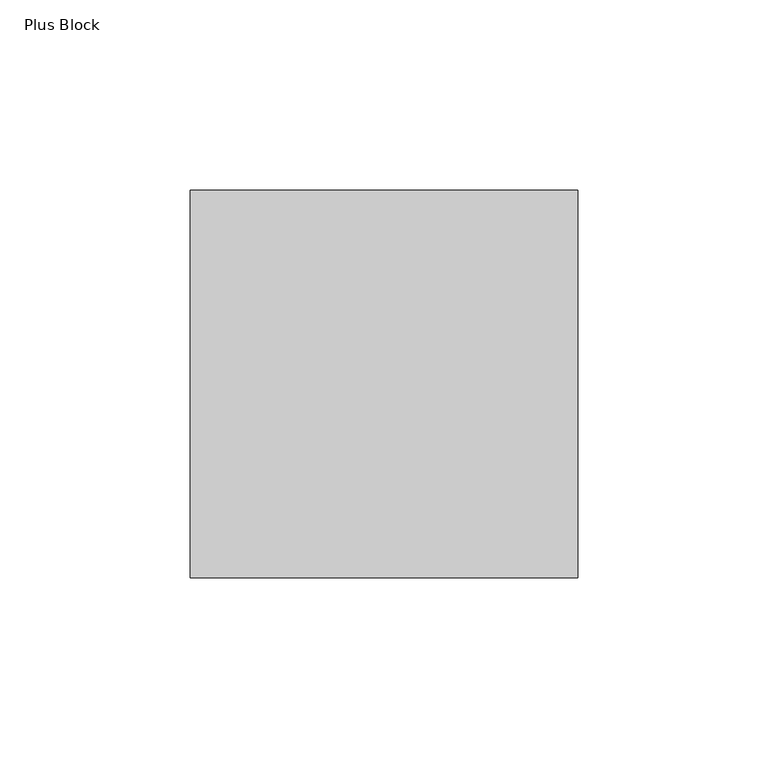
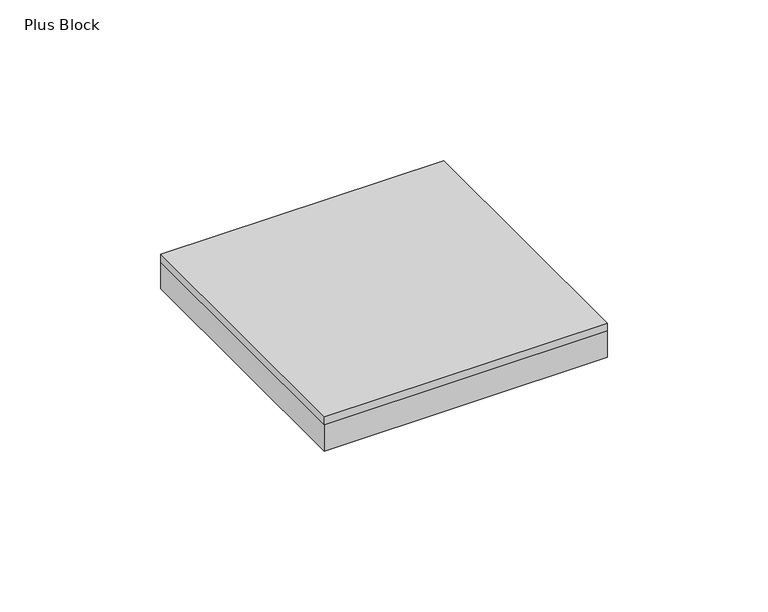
"""IFC4 building model written with IfcOpenShell, lengths in millimetres: proxy geometry, FilzFelt_Plus_Block : Plus Block."""

from ifc_helpers import new_model, si_unit, frame, origin, origin_with_axes, place, context, project, spatial, polyline, outline, extrude, source, transform, mapped, element, save


def plus_block_d670287a(model_context):
    return source(origin(), model_context, "Body", "SweptSolid", [
        extrude(outline(polyline([(-50.8333333, -50.8333333), (-152.5, -50.8333333), (-152.5, 50.8333333), (-50.8333333, 50.8333333), (-50.8333333, -50.8333333)])), frame((0.0, 0.0, 10.0210937), z_axis=(0.0, 0.0, 1.0), x_axis=(1.0, 0.0, 0.0)), (0.0, 0.0, 1.0), 2.9765625),
        extrude(outline(polyline([(-152.5, -50.8333333), (-152.5, 50.8333333), (-50.8333333, 50.8333333), (-50.8333333, -50.8333333), (-152.5, -50.8333333)])), origin_with_axes(), (0.0, 0.0, 1.0), 10.0210938),
    ])


if __name__ == "__main__":
    model = new_model("IFC4")
    model_context = context("Model", 3, world=origin())
    ifc_project = project(units=[si_unit("LENGTHUNIT", "METRE", prefix="MILLI")], contexts=[model_context])
    site = spatial("IfcSite", under=ifc_project)
    building = spatial("IfcBuilding", under=site)
    placement = place(None, origin())
    plus_block_shape = plus_block_d670287a(model_context)
    element("IfcBuildingElementProxy", 1, Name="FilzFelt_Plus_Block : Plus Block", ObjectType="FilzFelt_Plus_Block : Plus Block", at=placement, inside=building, context=model_context, shape_type="MappedRepresentation", body=[
        mapped(plus_block_shape, transform((0.0, 0.0, 0.0), x_axis=(1.0, 0.0, 0.0), y_axis=(0.0, 1.0, 0.0), z_axis=(0.0, 0.0, 1.0))),
    ])
    save(model, "model.ifc")
